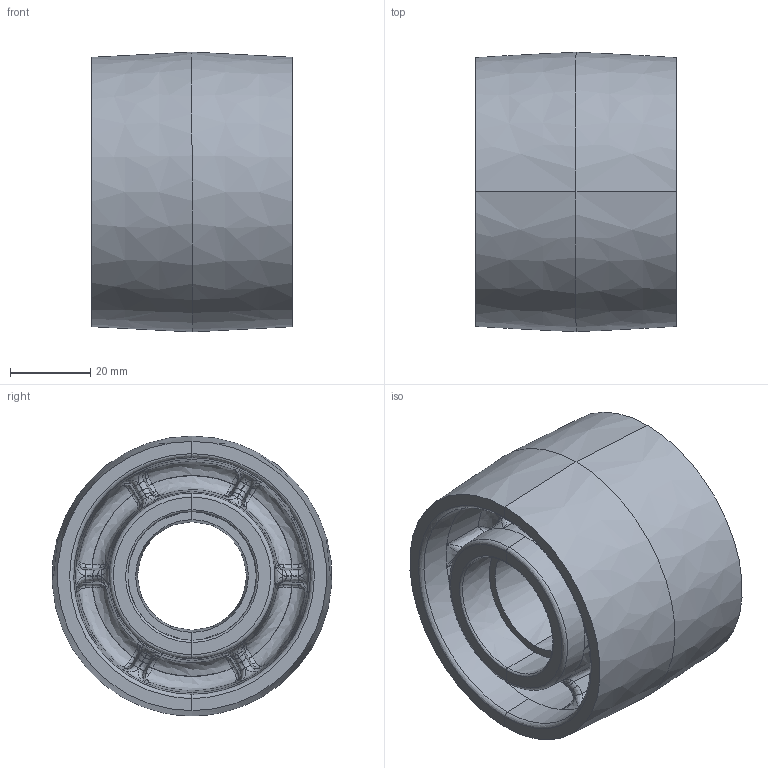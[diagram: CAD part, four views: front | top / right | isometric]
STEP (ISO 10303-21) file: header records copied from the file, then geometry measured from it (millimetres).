
FILE_DESCRIPTION (( 'STEP AP214' ), '1' );
FILE_NAME ('HP-100WJ-19.STEP', '2020-07-04T08:00:05', ( '' ), ( '' ), 'SwSTEP 2.0', 'SolidWorks 2010', '' );
FILE_SCHEMA (( 'AUTOMOTIVE_DESIGN' ));
Length unit declared in the file: millimetre
Products named in the file (1): HP-100WJ-19
Bounding box: 50 x 69.48 x 69.62 mm (x, y, z)
Volume: 99134.3 mm3; surface area: 33446.2 mm2
Topology: 1 solids, 1 shells, 426 faces, 1066 edges, 544 vertices
Faces by surface type: bspline 390, plane 36
Entity records: 35061 total; most frequent: CARTESIAN_POINT 28780, ORIENTED_EDGE 1940, EDGE_CURVE 970, B_SPLINE_CURVE_WITH_KNOTS 968, VERTEX_POINT 544, EDGE_LOOP 426, FACE_OUTER_BOUND 426, ADVANCED_FACE 426
